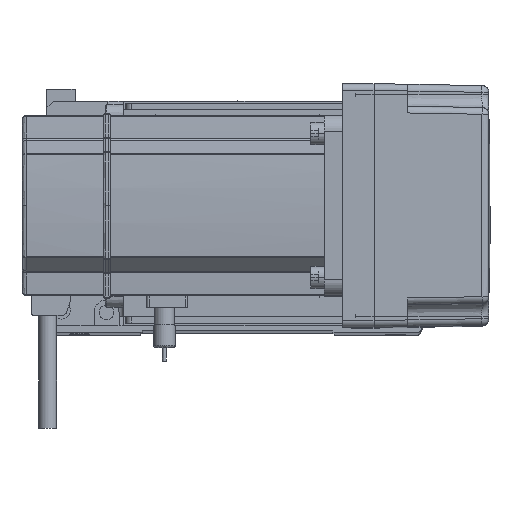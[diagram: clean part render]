
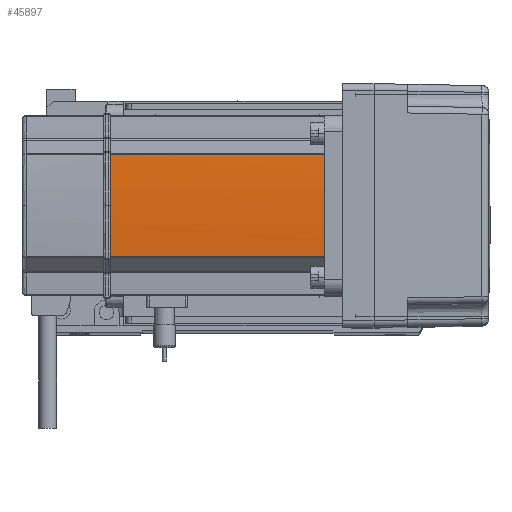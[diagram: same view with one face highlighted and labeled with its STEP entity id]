
A CAD part, top view. The second image highlights one B-rep face of the part: STEP entity #45897.
In plain terms, the highlighted cylindrical face has radius 270 mm (diameter 540 mm), a partial arc.
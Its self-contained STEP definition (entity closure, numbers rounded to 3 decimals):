
#1886 = LINE ( 'NONE', #32402, #16861 ) ;
#2302 = CIRCLE ( 'NONE', #34700, 270. ) ;
#3175 = CARTESIAN_POINT ( 'NONE',  ( -39.042, -22.724, 39. ) ) ;
#3347 = CIRCLE ( 'NONE', #40455, 270. ) ;
#3506 = VERTEX_POINT ( 'NONE', #3175 ) ;
#5790 = FACE_OUTER_BOUND ( 'NONE', #55282, .T. ) ;
#6285 = DIRECTION ( 'NONE',  ( 0., 0., 1. ) ) ;
#7438 = DIRECTION ( 'NONE',  ( 0., 0., -1. ) ) ;
#7856 = DIRECTION ( 'NONE',  ( 1., 0., 0. ) ) ;
#10017 = CARTESIAN_POINT ( 'NONE',  ( 230., 0., 0. ) ) ;
#10929 = DIRECTION ( 'NONE',  ( 1., 0., 0. ) ) ;
#11668 = CARTESIAN_POINT ( 'NONE',  ( 230., 0., 39. ) ) ;
#12425 = DIRECTION ( 'NONE',  ( 0., 0., -1. ) ) ;
#12618 = CARTESIAN_POINT ( 'NONE',  ( 230., 0., 134. ) ) ;
#16734 = AXIS2_PLACEMENT_3D ( 'NONE', #10017, #32480, #41237 ) ;
#16861 = VECTOR ( 'NONE', #6285, 1000. ) ;
#18713 = CARTESIAN_POINT ( 'NONE',  ( -39.042, 22.724, 39. ) ) ;
#19796 = ORIENTED_EDGE ( 'NONE', *, *, #51367, .T. ) ;
#21178 = ORIENTED_EDGE ( 'NONE', *, *, #31483, .T. ) ;
#21761 = VERTEX_POINT ( 'NONE', #35036 ) ;
#22840 = CARTESIAN_POINT ( 'NONE',  ( -39.042, 22.724, 0. ) ) ;
#23139 = ORIENTED_EDGE ( 'NONE', *, *, #46397, .F. ) ;
#23676 = CARTESIAN_POINT ( 'NONE',  ( 230., 0., 134. ) ) ;
#24398 = EDGE_CURVE ( 'NONE', #30295, #47232, #51837, .T. ) ;
#26776 = VERTEX_POINT ( 'NONE', #18713 ) ;
#29471 = ORIENTED_EDGE ( 'NONE', *, *, #24398, .T. ) ;
#30295 = VERTEX_POINT ( 'NONE', #36316 ) ;
#31029 = CYLINDRICAL_SURFACE ( 'NONE', #16734, 270. ) ;
#31483 = EDGE_CURVE ( 'NONE', #47232, #21761, #3347, .T. ) ;
#31800 = AXIS2_PLACEMENT_3D ( 'NONE', #12618, #12425, #7856 ) ;
#32402 = CARTESIAN_POINT ( 'NONE',  ( -39.042, -22.724, 0. ) ) ;
#32480 = DIRECTION ( 'NONE',  ( 0., 0., 1. ) ) ;
#34700 = AXIS2_PLACEMENT_3D ( 'NONE', #11668, #7438, #42857 ) ;
#35036 = CARTESIAN_POINT ( 'NONE',  ( -39.042, 22.724, 134. ) ) ;
#36316 = CARTESIAN_POINT ( 'NONE',  ( -39.042, -22.724, 134. ) ) ;
#40342 = DIRECTION ( 'NONE',  ( 0., 0., -1. ) ) ;
#40455 = AXIS2_PLACEMENT_3D ( 'NONE', #23676, #41209, #10929 ) ;
#41209 = DIRECTION ( 'NONE',  ( 0., 0., -1. ) ) ;
#41237 = DIRECTION ( 'NONE',  ( 1., 0., 0. ) ) ;
#42710 = EDGE_CURVE ( 'NONE', #21761, #26776, #51392, .T. ) ;
#42857 = DIRECTION ( 'NONE',  ( 1., 0., 0. ) ) ;
#45242 = VECTOR ( 'NONE', #40342, 1000. ) ;
#45897 = ADVANCED_FACE ( 'NONE', ( #5790 ), #31029, .T. ) ;
#46397 = EDGE_CURVE ( 'NONE', #3506, #26776, #2302, .T. ) ;
#46739 = ORIENTED_EDGE ( 'NONE', *, *, #42710, .T. ) ;
#47232 = VERTEX_POINT ( 'NONE', #48727 ) ;
#48727 = CARTESIAN_POINT ( 'NONE',  ( -40., 0., 134. ) ) ;
#51367 = EDGE_CURVE ( 'NONE', #3506, #30295, #1886, .T. ) ;
#51392 = LINE ( 'NONE', #22840, #45242 ) ;
#51837 = CIRCLE ( 'NONE', #31800, 270. ) ;
#55282 = EDGE_LOOP ( 'NONE', ( #29471, #21178, #46739, #23139, #19796 ) ) ;
